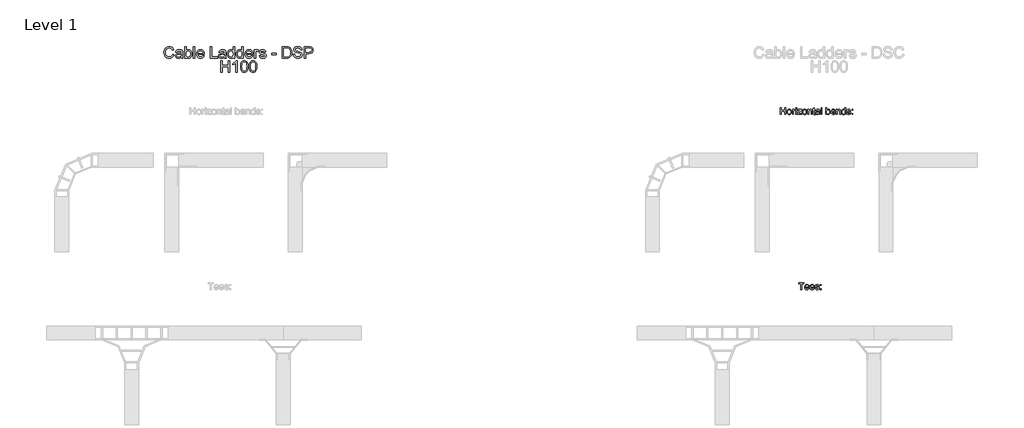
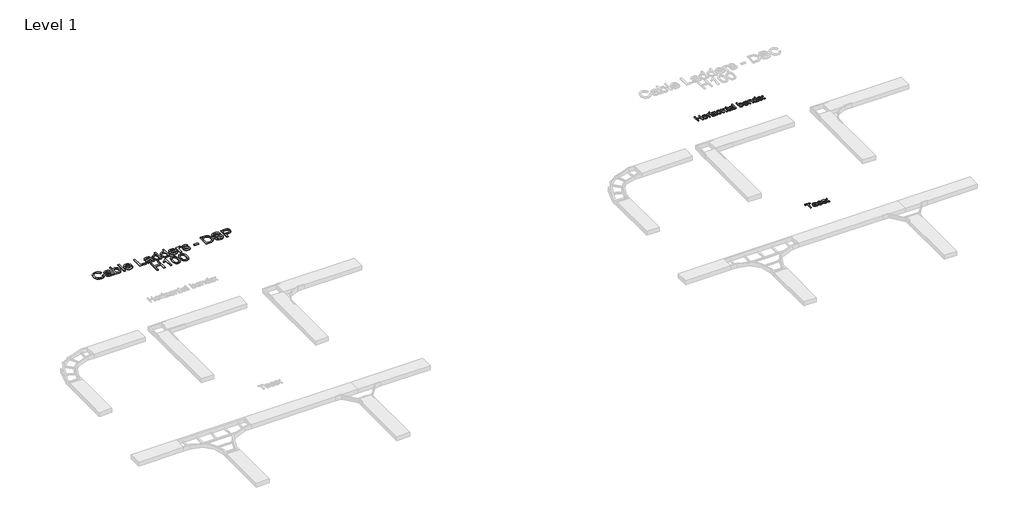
# One storey, part 86 of 106: 3 proxies.
"""IFC4 building model written with IfcOpenShell, lengths in millimetres."""

from ifc_helpers import new_model, si_unit, origin, origin_with_axes, place, context, project, spatial, polyline, outline, extrude, element, save

model = new_model("IFC4")

# Units and contexts
model_context = context("Model", 3, world=origin())
ifc_project = project(units=[si_unit("LENGTHUNIT", "METRE", prefix="MILLI")], contexts=[model_context])

# Site, building, storey
site = spatial("IfcSite", under=ifc_project)
building = spatial("IfcBuilding", under=site)
storey = spatial("IfcBuildingStorey", under=building, Name="Level 1", Elevation=0.0)

# Proxies
placement = place(None, origin())
element("IfcBuildingElementProxy", 1, Name="150mm Arial 2", ObjectType="150mm Arial 2", at=placement, inside=storey, context=model_context, shape_type="SweptSolid", body=[
    extrude(outline(polyline([(92565.8833156, 70274.2713912), (92565.8833156, 70424.9558564), (92584.7188737, 70424.9558564), (92584.7188737, 70363.7402924), (92664.7699959, 70363.7402924), (92664.7699959, 70424.9558564), (92683.605554, 70424.9558564), (92683.605554, 70274.2713912), (92664.7699959, 70274.2713912), (92664.7699959, 70344.9047343), (92584.7188737, 70344.9047343), (92584.7188737, 70274.2713912), (92565.8833156, 70274.2713912)])), origin_with_axes(), (0.0, 0.0, 1.0), 15.0),
    extrude(outline(polyline([(92709.5044465, 70329.6008433), (92713.5787396, 70356.281485), (92725.8016189, 70375.0342697), (92740.9031748, 70384.2221225), (92758.9845748, 70387.2847401), (92778.7720277, 70383.5553364), (92794.5771579, 70372.3671252), (92804.9376346, 70354.6030234), (92808.3911268, 70331.1459476), (92806.8644165, 70312.1172514), (92802.2842857, 70297.6318979), (92794.7840915, 70286.7839775), (92784.4971912, 70278.667581), (92772.2789104, 70273.6046051), (92758.9845748, 70271.9169464), (92738.9579987, 70275.6325546), (92723.1712626, 70286.779379), (92712.9211505, 70304.9159614), (92709.5044465, 70329.6008433)]), holes=[polyline([(92728.3400046, 70329.6376315), (92730.5197055, 70312.5908995), (92737.0588079, 70300.4461951), (92746.8996513, 70293.1759272), (92758.9845748, 70290.7525046), (92771.0143161, 70293.1897228), (92780.8367654, 70300.5013774), (92787.3758678, 70312.8070302), (92789.5555686, 70330.2262427), (92787.3620722, 70346.7763339), (92780.7815831, 70358.7554914), (92770.9453382, 70366.0257593), (92758.9845748, 70368.449182), (92746.8996513, 70366.0349564), (92737.0588079, 70358.7922796), (92730.5197055, 70346.6751664), (92728.3400046, 70329.6376315)])]), origin_with_axes(), (0.0, 0.0, 1.0), 15.0),
    extrude(outline(polyline([(92829.5811297, 70274.2713912), (92829.5811297, 70384.9302953), (92846.0622431, 70384.9302953), (92846.0622431, 70368.5595466), (92857.7608906, 70383.6427084), (92869.5331144, 70387.2847401), (92888.4422489, 70381.4722046), (92882.1514668, 70364.586421), (92868.907715, 70368.449182), (92858.2575312, 70364.7335738), (92851.4701084, 70354.4328779), (92848.4166879, 70332.4335346), (92848.4166879, 70274.2713912), (92829.5811297, 70274.2713912)])), origin_with_axes(), (0.0, 0.0, 1.0), 15.0),
    extrude(outline(polyline([(92900.2144728, 70406.1202983), (92900.2144728, 70424.9558564), (92919.0500309, 70424.9558564), (92919.0500309, 70406.1202983), (92900.2144728, 70406.1202983)])), origin_with_axes(), (0.0, 0.0, 1.0), 15.0),
    extrude(outline(polyline([(92900.2144728, 70274.2713912), (92900.2144728, 70384.9302953), (92919.0500309, 70384.9302953), (92919.0500309, 70274.2713912), (92900.2144728, 70274.2713912)])), origin_with_axes(), (0.0, 0.0, 1.0), 15.0),
    extrude(outline(polyline([(92935.5311443, 70274.2713912), (92935.5311443, 70292.0033034), (93000.5358929, 70366.0947372), (92981.2956645, 70366.0947372), (92940.2400339, 70366.0947372), (92940.2400339, 70384.9302953), (93027.3544903, 70384.9302953), (93027.3544903, 70368.9274285), (92969.7073817, 70303.186916), (92960.8782138, 70293.1069493), (92982.6568279, 70293.1069493), (93029.7089351, 70293.1069493), (93029.7089351, 70274.2713912), (92935.5311443, 70274.2713912)])), origin_with_axes(), (0.0, 0.0, 1.0), 15.0),
    extrude(outline(polyline([(93043.8356037, 70329.6008433), (93047.9098968, 70356.281485), (93060.1327761, 70375.0342697), (93075.234332, 70384.2221225), (93093.3157321, 70387.2847401), (93113.1031849, 70383.5553364), (93128.9083151, 70372.3671252), (93139.2687918, 70354.6030234), (93142.722284, 70331.1459476), (93141.1955737, 70312.1172514), (93136.6154429, 70297.6318979), (93129.1152487, 70286.7839775), (93118.8283484, 70278.667581), (93106.6100677, 70273.6046051), (93093.3157321, 70271.9169464), (93073.2891559, 70275.6325546), (93057.5024198, 70286.779379), (93047.2523077, 70304.9159614), (93043.8356037, 70329.6008433)]), holes=[polyline([(93062.6711619, 70329.6376315), (93064.8508627, 70312.5908995), (93071.3899651, 70300.4461951), (93081.2308085, 70293.1759272), (93093.3157321, 70290.7525046), (93105.3454733, 70293.1897228), (93115.1679226, 70300.5013774), (93121.707025, 70312.8070302), (93123.8867259, 70330.2262427), (93121.6932295, 70346.7763339), (93115.1127403, 70358.7554914), (93105.2764954, 70366.0257593), (93093.3157321, 70368.449182), (93081.2308085, 70366.0349564), (93071.3899651, 70358.7922796), (93064.8508627, 70346.6751664), (93062.6711619, 70329.6376315)])]), origin_with_axes(), (0.0, 0.0, 1.0), 15.0),
    extrude(outline(polyline([(93163.9122869, 70274.2713912), (93163.9122869, 70384.9302953), (93182.7478451, 70384.9302953), (93182.7478451, 70369.4792515), (93197.1504252, 70382.833368), (93216.8137178, 70387.2847401), (93234.6008123, 70383.6978907), (93246.7409182, 70374.2801116), (93252.3879068, 70360.4293545), (93253.3811882, 70342.2191957), (93253.3811882, 70274.2713912), (93234.54563, 70274.2713912), (93234.54563, 70339.6808099), (93232.3751262, 70356.3458643), (93224.7047866, 70365.1566381), (93211.7737345, 70368.449182), (93200.7418732, 70366.6005749), (93191.3378897, 70361.0547538), (93184.8953562, 70350.3401907), (93182.7478451, 70332.9853576), (93182.7478451, 70274.2713912), (93163.9122869, 70274.2713912)])), origin_with_axes(), (0.0, 0.0, 1.0), 15.0),
    extrude(outline(polyline([(93319.3056417, 70289.9799524), (93321.6600865, 70273.7195682), (93307.5702061, 70271.9169464), (93291.7880685, 70275.0439434), (93283.9153938, 70283.2477119), (93281.6345254, 70304.6216558), (93281.6345254, 70366.0947372), (93267.5078568, 70366.0947372), (93267.5078568, 70384.9302953), (93281.6345254, 70384.9302953), (93281.6345254, 70411.8224692), (93300.4700835, 70422.8957172), (93300.4700835, 70384.9302953), (93319.3056417, 70384.9302953), (93319.3056417, 70366.0947372), (93300.4700835, 70366.0947372), (93300.4700835, 70305.1734788), (93301.4633649, 70295.4613941), (93304.6823324, 70292.0216975), (93311.1018732, 70290.7525046), (93319.3056417, 70289.9799524)])), origin_with_axes(), (0.0, 0.0, 1.0), 15.0),
    extrude(outline(polyline([(93408.7745429, 70288.3980598), (93390.5092019, 70275.6325546), (93370.3308744, 70271.9169464), (93354.5901236, 70274.1518295), (93342.9788481, 70280.8564789), (93335.8189448, 70291.0376131), (93333.4323103, 70303.7019508), (93337.0375539, 70318.6011716), (93346.5105152, 70329.4169023), (93359.6990848, 70335.5973198), (93375.9962572, 70338.4300111), (93408.6641783, 70344.9047343), (93408.7745429, 70349.098589), (93407.4777589, 70357.5046926), (93403.5874068, 70363.0045284), (93394.8869976, 70367.0880186), (93382.7652859, 70368.449182), (93363.7089985, 70364.8255443), (93354.6223132, 70351.9680686), (93335.7867551, 70354.3225133), (93343.9353413, 70372.7166131), (93360.3428783, 70383.4955556), (93385.193307, 70387.2847401), (93408.0203848, 70383.9370139), (93420.9146488, 70375.5309104), (93426.6903961, 70362.747011), (93427.6101011, 70346.2658976), (93427.6101011, 70322.8318145), (93428.5665943, 70290.1087111), (93432.3189906, 70274.2713912), (93413.4834325, 70274.2713912), (93408.7745429, 70288.3980598)]), holes=[polyline([(93408.7745429, 70326.0691761), (93378.3874901, 70320.2934288), (93362.1822882, 70317.2400082), (93354.8430424, 70312.2736013), (93352.2678685, 70305.026326), (93357.8780689, 70294.8359947), (93374.3407882, 70290.7525046), (93393.3970755, 70295.259059), (93405.6843342, 70306.1667602), (93408.6641783, 70320.7348872), (93408.7745429, 70326.0691761)])]), origin_with_axes(), (0.0, 0.0, 1.0), 15.0),
    extrude(outline(polyline([(93453.5089935, 70274.2713912), (93453.5089935, 70424.9558564), (93472.3445517, 70424.9558564), (93472.3445517, 70274.2713912), (93453.5089935, 70274.2713912)])), origin_with_axes(), (0.0, 0.0, 1.0), 15.0),
    extrude(outline(polyline([(93578.2945663, 70274.2713912), (93559.4590082, 70274.2713912), (93559.4590082, 70424.9558564), (93578.2945663, 70424.9558564), (93578.2945663, 70369.0745813), (93591.4831358, 70382.7322004), (93607.8722787, 70387.2847401), (93626.7446251, 70383.1828559), (93641.3863285, 70371.6497553), (93650.3810433, 70353.715508), (93653.6367989, 70331.2563122), (93650.2660801, 70306.1115779), (93640.1539238, 70287.4047784), (93625.3144838, 70275.7889044), (93607.7619141, 70271.9169464), (93591.0140863, 70276.9109445), (93578.2945663, 70291.8929388), (93578.2945663, 70274.2713912)]), holes=[polyline([(93578.2945663, 70330.3733955), (93579.5821533, 70314.6648343), (93583.4449142, 70304.0330446), (93593.3133488, 70294.0726396), (93606.1432333, 70290.7525046), (93617.0141463, 70293.1989198), (93626.3031667, 70300.5381656), (93632.6767222, 70312.7242567), (93634.8012408, 70329.7112079), (93632.7640942, 70346.9464793), (93626.6526546, 70358.9946147), (93617.6533413, 70366.0855401), (93606.9525737, 70368.449182), (93596.0816608, 70366.0027667), (93586.7926404, 70358.6635209), (93580.4190848, 70346.698159), (93578.2945663, 70330.3733955)])]), origin_with_axes(), (0.0, 0.0, 1.0), 15.0),
    extrude(outline(polyline([(93752.30275, 70307.233618), (93770.7704262, 70304.8791732), (93764.1163606, 70290.9640367), (93753.4983665, 70280.5621733), (93739.1555672, 70274.0782531), (93721.327086, 70271.9169464), (93699.2265752, 70275.6463501), (93682.2212299, 70286.8345613), (93671.3779081, 70304.755013), (93667.7634675, 70328.6811383), (93671.4146963, 70353.4120054), (93682.3683827, 70371.9072727), (93699.1438017, 70383.4403733), (93720.2602282, 70387.2847401), (93740.7190657, 70383.4495703), (93757.0668219, 70371.9440609), (93767.7859835, 70353.4855818), (93771.3590374, 70328.7915029), (93771.2486728, 70323.7147313), (93686.5990257, 70323.7147313), (93689.8593799, 70309.6156539), (93697.4331504, 70299.2505787), (93708.3638442, 70292.8770231), (93721.694968, 70290.7525046), (93740.1626442, 70294.6888419), (93752.30275, 70307.233618)]), holes=[polyline([(93686.5990257, 70342.5502895), (93752.5234792, 70342.5502895), (93749.9758964, 70352.5014975), (93744.9818983, 70359.6200141), (93734.0006208, 70366.24189), (93720.1866518, 70368.449182), (93707.4901245, 70366.6879469), (93696.991692, 70361.4042417), (93689.693833, 70353.1682836), (93686.5990257, 70342.5502895)])]), origin_with_axes(), (0.0, 0.0, 1.0), 15.0),
    extrude(outline(polyline([(93790.1945955, 70274.2713912), (93790.1945955, 70384.9302953), (93809.0301537, 70384.9302953), (93809.0301537, 70369.4792515), (93823.4327338, 70382.833368), (93843.0960264, 70387.2847401), (93860.8831209, 70383.6978907), (93873.0232267, 70374.2801116), (93878.6702154, 70360.4293545), (93879.6634968, 70342.2191957), (93879.6634968, 70274.2713912), (93860.8279386, 70274.2713912), (93860.8279386, 70339.6808099), (93858.6574348, 70356.3458643), (93850.9870952, 70365.1566381), (93838.0560431, 70368.449182), (93827.0241818, 70366.6005749), (93817.6201983, 70361.0547538), (93811.1776648, 70350.3401907), (93809.0301537, 70332.9853576), (93809.0301537, 70274.2713912), (93790.1945955, 70274.2713912)])), origin_with_axes(), (0.0, 0.0, 1.0), 15.0),
    extrude(outline(polyline([(93973.8412875, 70274.2713912), (93973.8412875, 70292.0400916), (93961.3792849, 70276.9477327), (93944.1532105, 70271.9169464), (93931.9763165, 70273.7379623), (93920.829492, 70279.2010099), (93911.3933188, 70287.9244117), (93904.3483786, 70299.5264902), (93899.9613858, 70313.5381956), (93898.4990549, 70329.4904787), (93903.8885261, 70359.4728613), (93910.6207666, 70371.3646468), (93920.0385457, 70380.1110412), (93931.429092, 70385.4913154), (93944.0796341, 70387.2847401), (93961.4436643, 70382.1527863), (93973.8412875, 70368.8170639), (93973.8412875, 70424.9558564), (93992.6768457, 70424.9558564), (93992.6768457, 70274.2713912), (93973.8412875, 70274.2713912)]), holes=[polyline([(93917.3346131, 70329.5640551), (93919.4591316, 70312.5265202), (93925.8326871, 70300.4094069), (93935.0941164, 70293.1667302), (93945.8822559, 70290.7525046), (93956.6657969, 70293.0563656), (93965.6927013, 70299.9679485), (93971.804141, 70311.6160122), (93973.8412875, 70328.1293153), (93971.7673528, 70346.1831242), (93965.5455485, 70358.7003091), (93956.2887178, 70366.0119637), (93945.1097037, 70368.449182), (93934.2111996, 70366.1085328), (93925.2808642, 70359.0865852), (93919.3211758, 70347.0246543), (93917.3346131, 70329.5640551)])]), origin_with_axes(), (0.0, 0.0, 1.0), 15.0),
    extrude(outline(polyline([(94013.8668486, 70307.233618), (94032.7024067, 70309.5880627), (94035.6730539, 70301.531447), (94041.42121, 70295.6085469), (94061.3972024, 70290.7525046), (94080.6006425, 70295.2038767), (94086.8546364, 70305.6517254), (94085.2819409, 70310.4525854), (94080.5638543, 70314.1130113), (94061.1764732, 70319.4840884), (94032.8127713, 70328.6995324), (94020.4335422, 70339.4600807), (94016.2212934, 70354.6536071), (94019.6058077, 70368.6883052), (94028.8396458, 70379.4120654), (94040.8142047, 70384.9854776), (94057.0194066, 70387.2847401), (94079.9384549, 70383.5875261), (94094.5065819, 70373.5811358), (94100.9813051, 70356.6769581), (94082.1457469, 70354.3225133), (94075.0640185, 70364.7151797), (94058.4909346, 70368.449182), (94040.4647168, 70364.8807266), (94035.0568515, 70356.5665935), (94037.3009317, 70351.0851518), (94044.3274778, 70346.9280852), (94060.5510738, 70342.9181715), (94088.1974057, 70334.0522154), (94101.0364873, 70324.0090369), (94105.6901946, 70307.6382881), (94100.227147, 70289.6120704), (94084.4634035, 70276.5338655), (94061.139685, 70271.9169464), (94042.147777, 70274.1426325), (94028.2878228, 70280.8196907), (94019.0355906, 70291.8745447), (94013.8668486, 70307.233618)])), origin_with_axes(), (0.0, 0.0, 1.0), 15.0),
    extrude(outline(polyline([(94131.589087, 70366.0947372), (94131.589087, 70384.9302953), (94150.4246452, 70384.9302953), (94150.4246452, 70366.0947372), (94131.589087, 70366.0947372)])), origin_with_axes(), (0.0, 0.0, 1.0), 15.0),
    extrude(outline(polyline([(94131.589087, 70274.2713912), (94131.589087, 70293.1069493), (94150.4246452, 70293.1069493), (94150.4246452, 70274.2713912), (94131.589087, 70274.2713912)])), origin_with_axes(), (0.0, 0.0, 1.0), 15.0),
])
element("IfcBuildingElementProxy", 2, Name="150mm Arial 2", ObjectType="150mm Arial 2", at=placement, inside=storey, context=model_context, shape_type="SweptSolid", body=[
    extrude(outline(polyline([(93011.5611219, 66447.8476348), (93011.5611219, 66579.6965419), (92962.1177817, 66579.6965419), (92962.1177817, 66598.5321), (93079.8400202, 66598.5321), (93079.8400202, 66579.6965419), (93030.39668, 66579.6965419), (93030.39668, 66447.8476348), (93011.5611219, 66447.8476348)])), origin_with_axes(), (0.0, 0.0, 1.0), 15.0),
    extrude(outline(polyline([(93176.1515265, 66480.8098615), (93194.6192027, 66478.4554168), (93187.9651371, 66464.5402803), (93177.347143, 66454.1384169), (93163.0043437, 66447.6544967), (93145.1758625, 66445.49319), (93123.0753517, 66449.2225937), (93106.0700064, 66460.4108049), (93095.2266846, 66478.3312566), (93091.612244, 66502.2573819), (93095.2634728, 66526.988249), (93106.2171592, 66545.4835163), (93122.9925782, 66557.0166168), (93144.1090047, 66560.8609837), (93164.5678422, 66557.0258139), (93180.9155984, 66545.5203045), (93191.63476, 66527.0618254), (93195.2078139, 66502.3677465), (93195.0974493, 66497.2909749), (93110.4478022, 66497.2909749), (93113.7081564, 66483.1918975), (93121.2819269, 66472.8268223), (93132.2126207, 66466.4532667), (93145.5437445, 66464.3287482), (93164.0114207, 66468.2650855), (93176.1515265, 66480.8098615)]), holes=[polyline([(93110.4478022, 66516.1265331), (93176.3722557, 66516.1265331), (93173.8246729, 66526.0777411), (93168.8306748, 66533.1962577), (93157.8493973, 66539.8181336), (93144.0354283, 66542.0254255), (93131.338901, 66540.2641905), (93120.8404686, 66534.9804853), (93113.5426095, 66526.7445272), (93110.4478022, 66516.1265331)])]), origin_with_axes(), (0.0, 0.0, 1.0), 15.0),
    extrude(outline(polyline([(93291.5193202, 66480.8098615), (93309.9869964, 66478.4554168), (93303.3329308, 66464.5402803), (93292.7149367, 66454.1384169), (93278.3721374, 66447.6544967), (93260.5436562, 66445.49319), (93238.4431454, 66449.2225937), (93221.4378001, 66460.4108049), (93210.5944783, 66478.3312566), (93206.9800377, 66502.2573819), (93210.6312665, 66526.988249), (93221.5849529, 66545.4835163), (93238.3603719, 66557.0166168), (93259.4767984, 66560.8609837), (93279.9356359, 66557.0258139), (93296.2833921, 66545.5203045), (93307.0025537, 66527.0618254), (93310.5756076, 66502.3677465), (93310.465243, 66497.2909749), (93225.8155959, 66497.2909749), (93229.0759501, 66483.1918975), (93236.6497206, 66472.8268223), (93247.5804144, 66466.4532667), (93260.9115382, 66464.3287482), (93279.3792144, 66468.2650855), (93291.5193202, 66480.8098615)]), holes=[polyline([(93225.8155959, 66516.1265331), (93291.7400494, 66516.1265331), (93289.1924666, 66526.0777411), (93284.1984685, 66533.1962577), (93273.217191, 66539.8181336), (93259.403222, 66542.0254255), (93246.7066947, 66540.2641905), (93236.2082622, 66534.9804853), (93228.9104032, 66526.7445272), (93225.8155959, 66516.1265331)])]), origin_with_axes(), (0.0, 0.0, 1.0), 15.0),
    extrude(outline(polyline([(93322.3478314, 66480.8098615), (93341.1833896, 66483.1643063), (93344.1540367, 66475.1076906), (93349.9021929, 66469.1847905), (93369.8781852, 66464.3287482), (93389.0816253, 66468.7801203), (93395.3356193, 66479.227969), (93393.7629237, 66484.028829), (93389.0448371, 66487.6892549), (93369.657456, 66493.060332), (93341.2937542, 66502.275776), (93328.914525, 66513.0363243), (93324.7022762, 66528.2298507), (93328.0867905, 66542.2645488), (93337.3206286, 66552.988309), (93349.2951876, 66558.5617212), (93365.5003894, 66560.8609837), (93388.4194377, 66557.1637696), (93402.9875648, 66547.1573794), (93409.4622879, 66530.2532017), (93390.6267297, 66527.8987569), (93383.5450013, 66538.2914233), (93366.9719174, 66542.0254255), (93348.9456997, 66538.4569702), (93343.5378343, 66530.1428371), (93345.7819145, 66524.6613954), (93352.8084606, 66520.5043288), (93369.0320566, 66516.4944151), (93396.6783885, 66507.628459), (93409.5174702, 66497.5852805), (93414.1711774, 66481.2145317), (93408.7081298, 66463.188314), (93392.9443863, 66450.1101091), (93369.6206678, 66445.49319), (93350.6287598, 66447.7188761), (93336.7688056, 66454.3959343), (93327.5165734, 66465.4507882), (93322.3478314, 66480.8098615)])), origin_with_axes(), (0.0, 0.0, 1.0), 15.0),
    extrude(outline(polyline([(93440.0700699, 66539.6709808), (93440.0700699, 66558.5065389), (93458.905628, 66558.5065389), (93458.905628, 66539.6709808), (93440.0700699, 66539.6709808)])), origin_with_axes(), (0.0, 0.0, 1.0), 15.0),
    extrude(outline(polyline([(93440.0700699, 66447.8476348), (93440.0700699, 66466.6831929), (93458.905628, 66466.6831929), (93458.905628, 66447.8476348), (93440.0700699, 66447.8476348)])), origin_with_axes(), (0.0, 0.0, 1.0), 15.0),
])
element("IfcBuildingElementProxy", 3, Name="250mm Arial 3", ObjectType="250mm Arial 3", at=placement, inside=storey, context=model_context, shape_type="SweptSolid", body=[
    extrude(outline(polyline([(79287.288869, 71592.4106539), (79318.6814659, 71584.31725), (79304.1961124, 71547.7359841), (79281.4640708, 71521.01089), (79251.6043155, 71504.6631338), (79215.735821, 71499.2138818), (79179.3231676, 71503.3372258), (79150.40611, 71515.7072579), (79128.2412198, 71535.8947824), (79112.0850688, 71563.4706036), (79102.2212328, 71595.8902044), (79098.9332875, 71630.6090677), (79102.6504285, 71667.2286547), (79113.8018515, 71698.8511778), (79131.8050766, 71724.472626), (79156.0776241, 71743.0889877), (79184.8643902, 71754.4243517), (79216.4102713, 71758.2028064), (79250.8302305, 71753.3130415), (79279.2874356, 71738.643747), (79300.8928386, 71715.0992993), (79314.7573913, 71683.584075), (79283.3647944, 71676.1038078), (79272.4816187, 71698.9967978), (79257.6130547, 71714.7007605), (79238.5751615, 71723.7828472), (79215.183998, 71726.8102095), (79188.2213134, 71723.4532863), (79166.0717516, 71713.3825166), (79149.264143, 71697.6555613), (79138.3273178, 71677.3300811), (79132.3262428, 71654.3527848), (79130.3258844, 71630.6703814), (79132.6941248, 71601.6690174), (79139.7988458, 71576.5917281), (79151.9082948, 71556.3965394), (79169.2907191, 71542.0414774), (79190.1297013, 71533.4652284), (79212.608824, 71530.6064787), (79238.8127519, 71534.4998965), (79260.6480812, 71546.1801498), (79277.1337931, 71565.5246114), (79287.288869, 71592.4106539)])), origin_with_axes(), (0.0, 0.0, 1.0), 15.0),
    extrude(outline(polyline([(79475.6444505, 71526.6824041), (79460.645595, 71513.8218627), (79445.2022154, 71505.406562), (79428.9617582, 71500.7620518), (79411.5716697, 71499.2138818), (79385.3370849, 71502.938687), (79365.9849592, 71514.1131026), (79354.0517869, 71531.0816596), (79350.0740629, 71552.1888891), (79351.5762477, 71565.2027147), (79356.0828021, 71577.0209238), (79371.8710711, 71595.0471415), (79393.8520203, 71605.3478374), (79421.0139743, 71610.0689897), (79475.4605096, 71620.8601949), (79475.6444505, 71627.8499528), (79473.4831438, 71641.8601254), (79466.9992237, 71651.0265185), (79452.4985417, 71657.8323354), (79432.2956888, 71660.100941), (79413.5950207, 71658.591092), (79400.5352099, 71654.0615449), (79391.6293999, 71645.6845653), (79385.3907344, 71632.6324187), (79353.9981375, 71636.5564933), (79359.4473895, 71653.7243198), (79367.5791145, 71667.2133262), (79379.1520689, 71677.5293505), (79394.9250094, 71685.1782303), (79414.2158216, 71689.914711), (79436.3423907, 71691.4935379), (79457.5645833, 71690.098652), (79474.3875204, 71685.9139943), (79487.071785, 71679.6216794), (79495.8779603, 71671.9038217), (79505.5042058, 71650.5973228), (79507.0370475, 71623.1288005), (79507.0370475, 71584.0719953), (79508.6312028, 71529.5334895), (79514.8851967, 71503.1379564), (79483.4925998, 71503.1379564), (79475.6444505, 71526.6824041)]), holes=[polyline([(79475.6444505, 71589.4675979), (79424.9993625, 71579.8413524), (79397.9906927, 71574.7523181), (79385.7586164, 71566.4749732), (79381.4666598, 71554.3961811), (79383.8042433, 71545.0611754), (79390.8169938, 71537.4122956), (79402.3516272, 71532.3079329), (79418.2548593, 71530.6064787), (79435.1161174, 71532.4842097), (79450.0153382, 71538.1174028), (79462.0941304, 71546.4177403), (79470.4941026, 71556.2969047), (79474.2189078, 71566.4749732), (79475.4605096, 71580.5771164), (79475.6444505, 71589.4675979)])]), origin_with_axes(), (0.0, 0.0, 1.0), 15.0),
    extrude(outline(polyline([(79581.5944652, 71503.1379564), (79550.2018682, 71503.1379564), (79550.2018682, 71754.2787318), (79581.5944652, 71754.2787318), (79581.5944652, 71661.1432733), (79591.9181536, 71674.4215141), (79603.5754144, 71683.9059718), (79616.5662473, 71689.5966464), (79630.8906525, 71691.4935379), (79647.0621319, 71689.7844195), (79662.3445631, 71684.6570642), (79675.8642264, 71676.4333687), (79686.7474021, 71665.4352299), (79701.7385934, 71635.5448178), (79707.1648528, 71598.1128248), (79701.5469882, 71556.2049342), (79694.5246574, 71539.2746982), (79684.6933943, 71525.0269351), (79672.8924297, 71513.7337243), (79659.9609943, 71505.6671451), (79645.8990883, 71500.8271976), (79630.7067115, 71499.2138818), (79615.9109575, 71501.2947143), (79602.7936651, 71507.5372119), (79591.3548343, 71517.9413746), (79581.5944652, 71532.5072023), (79581.5944652, 71503.1379564)]), holes=[polyline([(79581.5944652, 71596.6412968), (79583.7404435, 71570.4603615), (79590.1783784, 71552.7407121), (79606.6257692, 71536.140037), (79628.0089102, 71530.6064787), (79646.1270985, 71534.6838375), (79661.6087991, 71546.9159138), (79672.2313917, 71567.2260656), (79675.7722559, 71595.5376509), (79672.3770117, 71624.2631033), (79662.1912789, 71644.3433289), (79647.1924234, 71656.161538), (79629.3578109, 71660.100941), (79611.2396226, 71656.0235822), (79595.757922, 71643.7915059), (79585.1353294, 71623.8492361), (79581.5944652, 71596.6412968)])]), origin_with_axes(), (0.0, 0.0, 1.0), 15.0),
    extrude(outline(polyline([(79742.4815244, 71503.1379564), (79742.4815244, 71754.2787318), (79773.8741213, 71754.2787318), (79773.8741213, 71503.1379564), (79742.4815244, 71503.1379564)])), origin_with_axes(), (0.0, 0.0, 1.0), 15.0),
    extrude(outline(polyline([(79950.089597, 71558.075001), (79980.8690573, 71554.1509264), (79969.7789479, 71530.9590323), (79952.0822911, 71513.6225933), (79928.1776257, 71502.8160596), (79898.4634903, 71499.2138818), (79878.9849051, 71500.7678), (79861.6293056, 71505.4295547), (79846.3966917, 71513.1991458), (79833.2870635, 71524.0765733), (79822.7449451, 71537.759101), (79815.2148605, 71553.9439928), (79810.6968098, 71572.6312485), (79809.1907928, 71593.8208682), (79810.7121382, 71615.7290074), (79815.2761742, 71635.0389801), (79822.8829009, 71651.7507861), (79833.5323182, 71665.8644256), (79846.6074574, 71677.0771622), (79861.4913498, 71685.0862598), (79878.1839954, 71689.8917184), (79896.685394, 71691.4935379), (79914.5909005, 71689.8955505), (79930.7834565, 71685.1015883), (79945.2630619, 71677.1116512), (79958.0297167, 71665.9257393), (79968.4511239, 71651.8427566), (79975.8949861, 71635.1616074), (79980.3613035, 71615.8822916), (79981.8500759, 71594.0048092), (79981.6661349, 71585.5435233), (79840.5833898, 71585.5435233), (79846.0173134, 71562.0450609), (79858.6402644, 71544.7699355), (79876.8580873, 71534.1473429), (79899.076627, 71530.6064787), (79915.7846009, 71532.2466193), (79929.8560873, 71537.1670409), (79941.2910859, 71545.6743121), (79950.089597, 71558.075001)]), holes=[polyline([(79840.5833898, 71616.9361202), (79950.457479, 71616.9361202), (79946.2115076, 71633.5214669), (79937.8881775, 71645.3856612), (79919.5860482, 71656.4221211), (79896.5627667, 71660.100941), (79875.4018878, 71657.1655493), (79857.9045004, 71648.359374), (79845.7414019, 71634.632777), (79840.5833898, 71616.9361202)])]), origin_with_axes(), (0.0, 0.0, 1.0), 15.0),
    extrude(outline(polyline([(80115.2686128, 71503.1379564), (80115.2686128, 71754.2787318), (80146.6612098, 71754.2787318), (80146.6612098, 71534.5305533), (80272.2315974, 71534.5305533), (80272.2315974, 71503.1379564), (80115.2686128, 71503.1379564)])), origin_with_axes(), (0.0, 0.0, 1.0), 15.0),
    extrude(outline(polyline([(80421.3464328, 71526.6824041), (80406.3475773, 71513.8218627), (80390.9041977, 71505.406562), (80374.6637405, 71500.7620518), (80357.273652, 71499.2138818), (80331.0390672, 71502.938687), (80311.6869414, 71514.1131026), (80299.7537692, 71531.0816596), (80295.7760451, 71552.1888891), (80297.2782299, 71565.2027147), (80301.7847844, 71577.0209238), (80317.5730533, 71595.0471415), (80339.5540026, 71605.3478374), (80366.7159565, 71610.0689897), (80421.1624918, 71620.8601949), (80421.3464328, 71627.8499528), (80419.1851261, 71641.8601254), (80412.7012059, 71651.0265185), (80398.200524, 71657.8323354), (80377.9976711, 71660.100941), (80359.297003, 71658.591092), (80346.2371921, 71654.0615449), (80337.3313822, 71645.6845653), (80331.0927167, 71632.6324187), (80299.7001197, 71636.5564933), (80305.1493718, 71653.7243198), (80313.2810967, 71667.2133262), (80324.8540512, 71677.5293505), (80340.6269917, 71685.1782303), (80359.9178038, 71689.914711), (80382.044373, 71691.4935379), (80403.2665656, 71690.098652), (80420.0895027, 71685.9139943), (80432.7737673, 71679.6216794), (80441.5799426, 71671.9038217), (80451.2061881, 71650.5973228), (80452.7390297, 71623.1288005), (80452.7390297, 71584.0719953), (80454.3331851, 71529.5334895), (80460.587179, 71503.1379564), (80429.194582, 71503.1379564), (80421.3464328, 71526.6824041)]), holes=[polyline([(80421.3464328, 71589.4675979), (80370.7013448, 71579.8413524), (80343.692675, 71574.7523181), (80331.4605987, 71566.4749732), (80327.1686421, 71554.3961811), (80329.5062256, 71545.0611754), (80336.5189761, 71537.4122956), (80348.0536095, 71532.3079329), (80363.9568416, 71530.6064787), (80380.8180997, 71532.4842097), (80395.7173205, 71538.1174028), (80407.7961127, 71546.4177403), (80416.1960849, 71556.2969047), (80419.9208901, 71566.4749732), (80421.1624918, 71580.5771164), (80421.3464328, 71589.4675979)])]), origin_with_axes(), (0.0, 0.0, 1.0), 15.0),
    extrude(outline(polyline([(80609.7020143, 71503.1379564), (80609.7020143, 71532.752457), (80600.3095272, 71518.0793303), (80588.93201, 71507.5985256), (80575.569463, 71501.3100427), (80560.221886, 71499.2138818), (80539.9270626, 71502.2489082), (80521.3490218, 71511.3539876), (80505.6220665, 71525.8929906), (80493.8804995, 71545.229788), (80486.5688449, 71568.5826305), (80484.1316267, 71595.1697689), (80486.3772397, 71621.4273463), (80493.1140787, 71645.1404065), (80504.3344796, 71664.960049), (80520.030778, 71679.5373731), (80539.0150218, 71688.5044967), (80560.0992587, 71691.4935379), (80575.458332, 71689.3552238), (80589.039309, 71682.9402815), (80600.5509497, 71673.1071024), (80609.7020143, 71660.7140777), (80609.7020143, 71754.2787318), (80641.0946113, 71754.2787318), (80641.0946113, 71503.1379564), (80609.7020143, 71503.1379564)]), holes=[polyline([(80515.5242236, 71595.2923962), (80519.0650878, 71566.8965047), (80529.6876804, 71546.701316), (80545.1233958, 71534.630188), (80563.1036283, 71530.6064787), (80581.0761966, 71534.446247), (80596.1210374, 71545.965552), (80606.3067701, 71565.3789915), (80609.7020143, 71592.9011632), (80606.2454564, 71622.9908447), (80595.8757827, 71643.8528196), (80580.4477315, 71656.0389106), (80561.8160413, 71660.100941), (80543.6518678, 71656.199859), (80528.7679754, 71644.496613), (80518.8351615, 71624.3933948), (80515.5242236, 71595.2923962)])]), origin_with_axes(), (0.0, 0.0, 1.0), 15.0),
    extrude(outline(polyline([(80801.9816705, 71503.1379564), (80801.9816705, 71532.752457), (80792.5891833, 71518.0793303), (80781.2116662, 71507.5985256), (80767.8491191, 71501.3100427), (80752.5015421, 71499.2138818), (80732.2067187, 71502.2489082), (80713.628678, 71511.3539876), (80697.9017227, 71525.8929906), (80686.1601557, 71545.229788), (80678.848501, 71568.5826305), (80676.4112828, 71595.1697689), (80678.6568958, 71621.4273463), (80685.3937349, 71645.1404065), (80696.6141357, 71664.960049), (80712.3104342, 71679.5373731), (80731.294678, 71688.5044967), (80752.3789148, 71691.4935379), (80767.7379881, 71689.3552238), (80781.3189651, 71682.9402815), (80792.8306059, 71673.1071024), (80801.9816705, 71660.7140777), (80801.9816705, 71754.2787318), (80833.3742674, 71754.2787318), (80833.3742674, 71503.1379564), (80801.9816705, 71503.1379564)]), holes=[polyline([(80707.8038797, 71595.2923962), (80711.3447439, 71566.8965047), (80721.9673365, 71546.701316), (80737.4030519, 71534.630188), (80755.3832844, 71530.6064787), (80773.3558527, 71534.446247), (80788.4006935, 71545.965552), (80798.5864262, 71565.3789915), (80801.9816705, 71592.9011632), (80798.5251126, 71622.9908447), (80788.1554388, 71643.8528196), (80772.7273877, 71656.0389106), (80754.0956975, 71660.100941), (80735.9315239, 71656.199859), (80721.0476316, 71644.496613), (80711.1148177, 71624.3933948), (80707.8038797, 71595.2923962)])]), origin_with_axes(), (0.0, 0.0, 1.0), 15.0),
    extrude(outline(polyline([(81009.5897431, 71558.075001), (81040.3692034, 71554.1509264), (81029.2790941, 71530.9590323), (81011.5824372, 71513.6225933), (80987.6777718, 71502.8160596), (80957.9636364, 71499.2138818), (80938.4850512, 71500.7678), (80921.1294517, 71505.4295547), (80905.8968378, 71513.1991458), (80892.7872096, 71524.0765733), (80882.2450912, 71537.759101), (80874.7150066, 71553.9439928), (80870.1969559, 71572.6312485), (80868.690939, 71593.8208682), (80870.2122843, 71615.7290074), (80874.7763203, 71635.0389801), (80882.383047, 71651.7507861), (80893.0324643, 71665.8644256), (80906.1076035, 71677.0771622), (80920.9914959, 71685.0862598), (80937.6841415, 71689.8917184), (80956.1855401, 71691.4935379), (80974.0910466, 71689.8955505), (80990.2836026, 71685.1015883), (81004.763208, 71677.1116512), (81017.5298628, 71665.9257393), (81027.95127, 71651.8427566), (81035.3951322, 71635.1616074), (81039.8614496, 71615.8822916), (81041.350222, 71594.0048092), (81041.166281, 71585.5435233), (80900.0835359, 71585.5435233), (80905.5174595, 71562.0450609), (80918.1404105, 71544.7699355), (80936.3582334, 71534.1473429), (80958.5767731, 71530.6064787), (80975.2847471, 71532.2466193), (80989.3562334, 71537.1670409), (81000.7912321, 71545.6743121), (81009.5897431, 71558.075001)]), holes=[polyline([(80900.0835359, 71616.9361202), (81009.9576251, 71616.9361202), (81005.7116537, 71633.5214669), (80997.3883236, 71645.3856612), (80979.0861943, 71656.4221211), (80956.0629128, 71660.100941), (80934.9020339, 71657.1655493), (80917.4046465, 71648.359374), (80905.241548, 71634.632777), (80900.0835359, 71616.9361202)])]), origin_with_axes(), (0.0, 0.0, 1.0), 15.0),
    extrude(outline(polyline([(81072.7428189, 71503.1379564), (81072.7428189, 71687.5694633), (81100.2113412, 71687.5694633), (81100.2113412, 71660.284882), (81110.3587529, 71676.1038078), (81119.709087, 71685.423485), (81139.3294601, 71691.4935379), (81154.9644449, 71689.0716481), (81170.8446843, 71681.8059787), (81160.3600475, 71653.6630061), (81138.2871278, 71660.100941), (81128.9138011, 71658.5527709), (81120.5368215, 71653.9082608), (81109.2244501, 71636.7404343), (81104.1354159, 71600.0748621), (81104.1354159, 71503.1379564), (81072.7428189, 71503.1379564)])), origin_with_axes(), (0.0, 0.0, 1.0), 15.0),
    extrude(outline(polyline([(81178.6928336, 71558.075001), (81210.0854305, 71561.9990756), (81215.036509, 71548.5713828), (81224.6167693, 71538.6998826), (81238.887525, 71532.6298297), (81257.9100898, 71530.6064787), (81276.7027284, 71532.4612171), (81289.9158234, 71538.0254323), (81297.7333158, 71546.0881793), (81300.3391466, 71555.4385134), (81297.7179874, 71563.4399468), (81289.8545098, 71569.5406565), (81257.5422079, 71578.4924517), (81210.2693715, 71593.851525), (81198.3055424, 71601.5693827), (81189.6373229, 71611.7857723), (81184.3720119, 71623.8492361), (81182.6169082, 71637.1083163), (81188.2577654, 71660.4994798), (81203.6474956, 71678.3724134), (81223.6050938, 71687.6614338), (81250.6137636, 71691.4935379), (81271.0465428, 71689.9530321), (81288.8121774, 71685.3315145), (81303.0982616, 71678.0811735), (81313.0923891, 71668.6541974), (81319.714265, 71656.3531432), (81323.8835943, 71640.4805679), (81292.4909974, 71636.5564933), (81288.5286017, 71646.4356577), (81280.6881167, 71653.8776039), (81268.8929002, 71658.5451067), (81253.0663102, 71660.100941), (81235.0400925, 71658.6140846), (81223.022614, 71654.1535154), (81216.2627823, 71647.7155805), (81214.0095051, 71640.2966269), (81217.7496387, 71631.1608907), (81229.4605489, 71624.2324465), (81256.4998755, 71617.5492569), (81302.5770954, 71602.7726634), (81314.7478581, 71595.7062634), (81323.9755648, 71586.0340326), (81329.7926989, 71573.7253142), (81331.7317435, 71558.7494513), (81329.4554737, 71543.2677507), (81322.6266642, 71528.7057551), (81311.505898, 71516.2054314), (81296.3537583, 71506.9087468), (81278.0516291, 71501.137598), (81257.4808942, 71499.2138818), (81225.8277142, 71502.9233586), (81202.7277906, 71514.0517889), (81187.3074036, 71532.4765455), (81178.6928336, 71558.075001)])), origin_with_axes(), (0.0, 0.0, 1.0), 15.0),
    extrude(outline(polyline([(81449.453982, 71577.6953741), (81449.453982, 71609.087971), (81547.5558474, 71609.087971), (81547.5558474, 71577.6953741), (81449.453982, 71577.6953741)])), origin_with_axes(), (0.0, 0.0, 1.0), 15.0),
    extrude(outline(polyline([(81684.8984589, 71503.1379564), (81684.8984589, 71754.2787318), (81771.5346688, 71754.2787318), (81816.3549585, 71750.6612255), (81836.3738704, 71743.686796), (81853.2657854, 71732.6963214), (81870.6328812, 71713.5664576), (81883.0029133, 71689.7767553), (81890.4065385, 71661.7870668), (81892.8744135, 71630.0572447), (81891.2036161, 71603.1022244), (81886.1912239, 71579.3814999), (81878.5576725, 71559.1863112), (81869.0233975, 71542.8078982), (81846.0920865, 71520.0298713), (81816.079047, 71507.429913), (81775.7039981, 71503.1379564), (81684.8984589, 71503.1379564)]), holes=[polyline([(81716.2910558, 71534.5305533), (81771.8412371, 71534.5305533), (81812.2469429, 71539.0677646), (81835.5461359, 71551.8823208), (81846.4523043, 71565.470962), (81854.6453429, 71583.0603198), (81859.7726982, 71604.7270365), (81861.4818166, 71630.5477541), (81858.1325576, 71664.7607796), (81848.0847806, 71690.0220099), (81833.2392093, 71707.3737774), (81815.4965672, 71717.8584142), (81797.4396926, 71721.6292047), (81770.9828458, 71722.8861348), (81716.2910558, 71722.8861348), (81716.2910558, 71534.5305533)])]), origin_with_axes(), (0.0, 0.0, 1.0), 15.0),
    extrude(outline(polyline([(81924.2670104, 71589.4675979), (81955.6596074, 71589.4675979), (81959.2617852, 71572.0468526), (81965.7763622, 71558.0443442), (81975.9391024, 71546.9312422), (81990.4857696, 71538.1787164), (82008.2667327, 71532.4995381), (82028.1323604, 71530.6064787), (82045.6220836, 71532.0396856), (82060.9351717, 71536.3393065), (82073.3435248, 71543.1451234), (82082.1190432, 71552.0969186), (82087.338369, 71562.3746218), (82089.0781443, 71573.1581628), (82083.8664827, 71592.7478791), (82075.926363, 71600.4963936), (82062.529327, 71607.0033064), (82016.8199891, 71618.990128), (81967.6157722, 71634.4718287), (81951.9884516, 71645.0331076), (81940.9136707, 71657.8323354), (81934.3147874, 71672.5936004), (81932.1151597, 71689.0409913), (81934.8359536, 71707.4274268), (81942.9983354, 71724.5722607), (81956.3877071, 71739.1035995), (81974.7894711, 71749.64955), (81996.8777192, 71756.0644923), (82021.3265435, 71758.2028064), (82047.8140472, 71755.9648576), (82070.9906129, 71749.2510112), (82090.0285061, 71738.1992229), (82104.0999924, 71722.9474485), (82113.0058024, 71704.4460498), (82116.5466666, 71683.6453887), (82085.1540697, 71683.6453887), (82079.3905851, 71702.3767136), (82067.3731066, 71715.8963769), (82048.5957964, 71724.0817513), (82022.5528168, 71726.8102095), (81995.8967006, 71724.1124082), (81977.6098997, 71716.0190043), (81967.0332924, 71704.1088247), (81963.5077566, 71689.9606963), (81966.0062885, 71677.8972325), (81973.5018841, 71668.1943449), (81991.2215336, 71659.5184612), (82024.7601088, 71650.6586365), (82080.3102901, 71634.9010243), (82098.2062163, 71623.5120109), (82110.6912115, 71609.455853), (82118.0258588, 71592.8858348), (82120.4707412, 71573.9552405), (82117.6579768, 71554.6031147), (82109.2196835, 71536.4006201), (82095.5007508, 71520.7349785), (82076.8460679, 71508.9934115), (82054.4129304, 71501.6587642), (82029.3586337, 71499.2138818), (81998.6021661, 71501.8503694), (81973.2872863, 71509.7598323), (81953.1227544, 71522.9729273), (81937.8173306, 71541.5203112), (81927.9918156, 71564.1143971), (81924.2670104, 71589.4675979)])), origin_with_axes(), (0.0, 0.0, 1.0), 15.0),
    extrude(outline(polyline([(82167.5596366, 71503.1379564), (82167.5596366, 71754.2787318), (82260.6337814, 71754.2787318), (82298.1577449, 71751.8874988), (82314.8887114, 71747.4192654), (82328.6612936, 71740.1459318), (82339.751403, 71729.737937), (82348.4349509, 71715.8657201), (82354.0451513, 71699.5026355), (82355.9152181, 71681.6220377), (82350.8645049, 71652.0228655), (82335.7123652, 71627.3594434), (82323.5780075, 71617.6488916), (82307.3777874, 71610.7127832), (82287.1117048, 71606.5511181), (82262.7797597, 71605.1638964), (82198.9522335, 71605.1638964), (82198.9522335, 71503.1379564), (82167.5596366, 71503.1379564)]), holes=[polyline([(82198.9522335, 71636.5564933), (82264.6191696, 71636.5564933), (82292.455574, 71639.4382356), (82310.8496737, 71648.0834625), (82321.1043843, 71661.9556794), (82324.5226212, 71680.5183917), (82322.5069344, 71694.6205349), (82316.4598741, 71706.5153861), (82307.1325327, 71715.4671813), (82295.2760026, 71720.7401565), (82263.8834057, 71722.8861348), (82198.9522335, 71722.8861348), (82198.9522335, 71636.5564933)])]), origin_with_axes(), (0.0, 0.0, 1.0), 15.0),
    extrude(outline(polyline([(80340.9029032, 71198.2009118), (80340.9029032, 71449.3416872), (80372.2955001, 71449.3416872), (80372.2955001, 71347.3157472), (80505.714037, 71347.3157472), (80505.714037, 71449.3416872), (80537.106634, 71449.3416872), (80537.106634, 71198.2009118), (80505.714037, 71198.2009118), (80505.714037, 71315.9231502), (80372.2955001, 71315.9231502), (80372.2955001, 71198.2009118), (80340.9029032, 71198.2009118)])), origin_with_axes(), (0.0, 0.0, 1.0), 15.0),
    extrude(outline(polyline([(80697.9936932, 71198.2009118), (80666.6010963, 71198.2009118), (80666.6010963, 71393.9141332), (80636.8639683, 71372.7302617), (80603.8159024, 71356.880679), (80603.8159024, 71386.5564933), (80628.4716603, 71399.9688577), (80649.8318087, 71415.9257393), (80666.6700741, 71432.8942963), (80677.7601835, 71449.3416872), (80697.9936932, 71449.3416872), (80697.9936932, 71198.2009118)])), origin_with_axes(), (0.0, 0.0, 1.0), 15.0),
    extrude(outline(polyline([(80772.5511109, 71321.7479485), (80774.8580376, 71361.9467207), (80781.7788176, 71394.0061037), (80793.2444731, 71418.4166069), (80809.1860262, 71435.6687397), (80829.7184401, 71445.9234503), (80854.9566778, 71449.3416872), (80874.3011394, 71447.3183362), (80891.62225, 71441.2482833), (80906.1076035, 71431.3691189), (80916.944794, 71417.9184334), (80931.6600738, 71380.7623519), (80935.936702, 71355.0489333), (80937.3622447, 71321.7479485), (80935.0783107, 71281.7791026), (80928.2265085, 71249.7963616), (80916.8298309, 71225.3628658), (80900.9112704, 71208.0417552), (80880.3328713, 71197.7180667), (80854.9566778, 71194.2768372), (80837.666224, 71195.7713578), (80822.3378076, 71200.2549196), (80808.9714284, 71207.7275226), (80797.5670866, 71218.1891669), (80786.6225972, 71237.1006007), (80778.8051048, 71260.6642089), (80774.1146094, 71288.8799915), (80772.5511109, 71321.7479485)]), holes=[polyline([(80803.9437078, 71321.8092622), (80807.6225278, 71272.4287685), (80812.2210527, 71255.5387696), (80818.6589876, 71243.848936), (80835.0910501, 71230.2143096), (80854.9566778, 71225.6694341), (80874.8223055, 71230.229638), (80891.254368, 71243.9102497), (80897.6923029, 71255.6192438), (80902.2908278, 71272.5054106), (80905.9696478, 71321.8092622), (80902.4134552, 71370.0784456), (80897.9682144, 71386.912879), (80891.7448773, 71398.8805402), (80875.3434717, 71413.1819527), (80854.5887958, 71417.9490902), (80834.9377659, 71413.7491041), (80819.1494969, 71401.1491458), (80812.4969642, 71388.1199918), (80807.7451551, 71370.5536265), (80803.9437078, 71321.8092622)])]), origin_with_axes(), (0.0, 0.0, 1.0), 15.0),
    extrude(outline(polyline([(80964.830767, 71321.7479485), (80967.1376937, 71361.9467207), (80974.0584737, 71394.0061037), (80985.5241293, 71418.4166069), (81001.4656824, 71435.6687397), (81021.9980962, 71445.9234503), (81047.2363339, 71449.3416872), (81066.5807955, 71447.3183362), (81083.9019061, 71441.2482833), (81098.3872597, 71431.3691189), (81109.2244501, 71417.9184334), (81123.9397299, 71380.7623519), (81128.2163581, 71355.0489333), (81129.6419009, 71321.7479485), (81127.3579668, 71281.7791026), (81120.5061647, 71249.7963616), (81109.109487, 71225.3628658), (81093.1909265, 71208.0417552), (81072.6125274, 71197.7180667), (81047.2363339, 71194.2768372), (81029.9458802, 71195.7713578), (81014.6174637, 71200.2549196), (81001.2510845, 71207.7275226), (80989.8467427, 71218.1891669), (80978.9022533, 71237.1006007), (80971.0847609, 71260.6642089), (80966.3942655, 71288.8799915), (80964.830767, 71321.7479485)]), holes=[polyline([(80996.2233639, 71321.8092622), (80999.9021839, 71272.4287685), (81004.5007088, 71255.5387696), (81010.9386438, 71243.848936), (81027.3707062, 71230.2143096), (81047.2363339, 71225.6694341), (81067.1019617, 71230.229638), (81083.5340241, 71243.9102497), (81089.9719591, 71255.6192438), (81094.570484, 71272.5054106), (81098.2493039, 71321.8092622), (81094.6931113, 71370.0784456), (81090.2478705, 71386.912879), (81084.0245335, 71398.8805402), (81067.6231278, 71413.1819527), (81046.8684519, 71417.9490902), (81027.217422, 71413.7491041), (81011.4291531, 71401.1491458), (81004.7766203, 71388.1199918), (81000.0248112, 71370.5536265), (80996.2233639, 71321.8092622)])]), origin_with_axes(), (0.0, 0.0, 1.0), 15.0),
])

save(model, "model.ifc")
